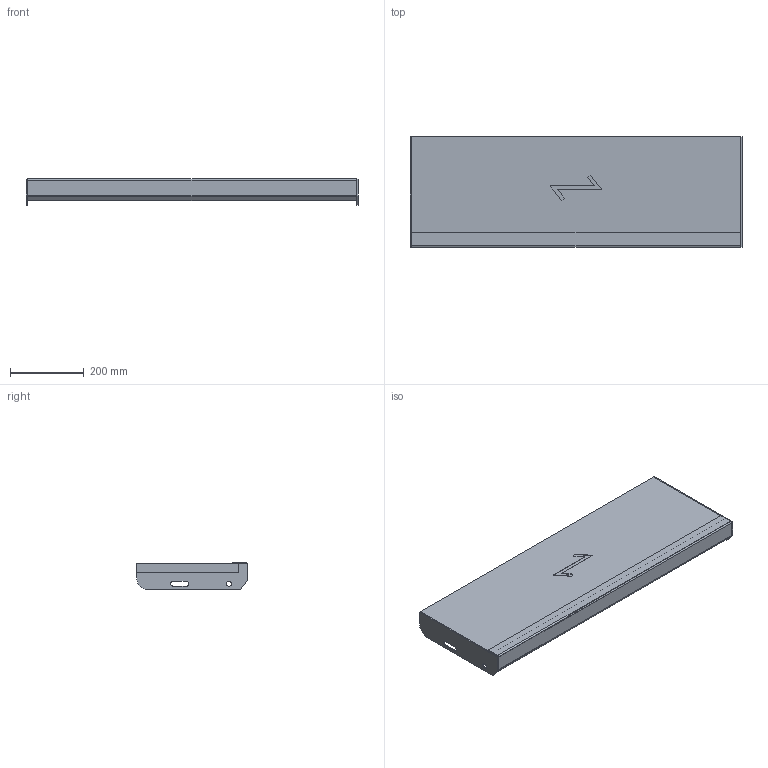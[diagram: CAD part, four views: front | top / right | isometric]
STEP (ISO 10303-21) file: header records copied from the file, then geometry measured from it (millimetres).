
FILE_DESCRIPTION (( 'STEP AP203' ), '1' );
FILE_NAME ('StegTH6-S-nya_steget-900x300.STEP', '2020-03-04T07:44:00', ( '' ), ( '' ), 'SwSTEP 2.0', 'SolidWorks 2019', '' );
FILE_SCHEMA (( 'CONFIG_CONTROL_DESIGN' ));
Length unit declared in the file: millimetre
Products named in the file (5): SW0000038703; SW0000039245; SW0000039005; StegTH6-S-nya_steget-900x300; SW0000039522
Assembly tree (5 placements, depth 3):
  StegTH6-S-nya_steget-900x300
    SW0000039522
      SW0000039005
      SW0000039245
      SW0000038703  x2
Bounding box: 900 x 300 x 72 mm (x, y, z)
Volume: 6482814.2 mm3; surface area: 817746.6 mm2
Topology: 4 solids, 4 shells, 67 faces, 158 edges, 100 vertices
Faces by surface type: plane 51, cylinder 16
Entity records: 2002 total; most frequent: DIRECTION 261, CARTESIAN_POINT 254, ORIENTED_EDGE 238, EDGE_CURVE 119, VECTOR 99, LINE 99, AXIS2_PLACEMENT_3D 81, VERTEX_POINT 74
